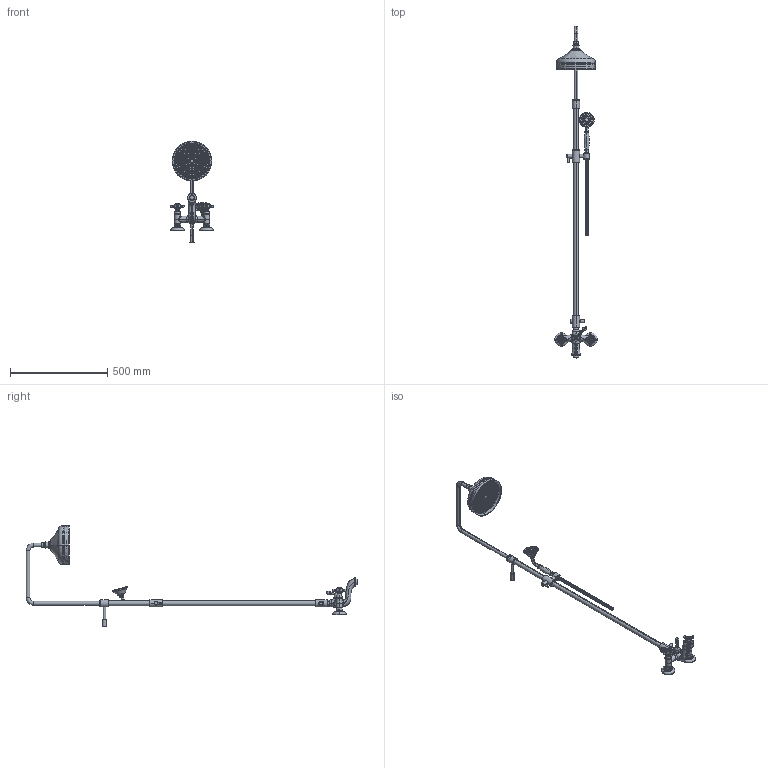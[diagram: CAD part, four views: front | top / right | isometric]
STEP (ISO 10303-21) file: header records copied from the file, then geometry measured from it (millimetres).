
FILE_DESCRIPTION((''),'2;1');
FILE_NAME('F5084_2_FILE_3D','2013-09-17T',('ivanv'),(''),'PRO/ENGINEER BY PARAMETRIC TECHNOLOGY CORPORATION, 2012130','PRO/ENGINEER BY PARAMETRIC TECHNOLOGY CORPORATION, 2012130','');
FILE_SCHEMA(('CONFIG_CONTROL_DESIGN'));
Products named in the file (1): F5084_2_FILE_3D
Bounding box: 220 x 1709.7 x 524 mm (x, y, z)
Volume: 2697677.6 mm3; surface area: 589091.7 mm2
Topology: 7 solids, 9 shells, 2844 faces, 6860 edges, 4249 vertices
Faces by surface type: cylinder 1087, plane 801, cone 514, torus 270, bspline 140, sphere 32
Entity records: 154675 total; most frequent: CARTESIAN_POINT 88429, DIRECTION 14015, ORIENTED_EDGE 13676, EDGE_CURVE 6838, AXIS2_PLACEMENT_3D 5683, VERTEX_POINT 4249, EDGE_LOOP 3287, CIRCLE 2979
